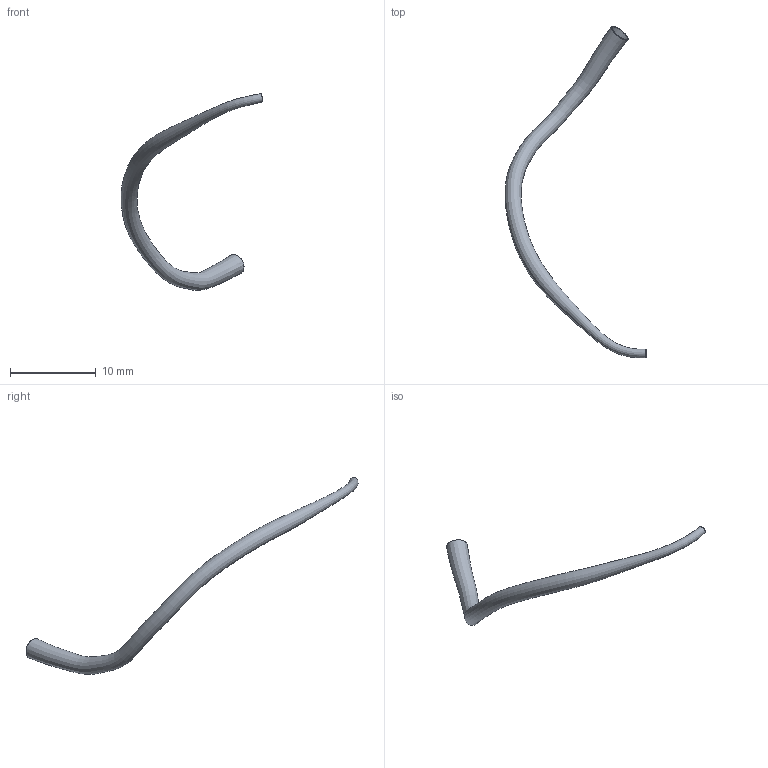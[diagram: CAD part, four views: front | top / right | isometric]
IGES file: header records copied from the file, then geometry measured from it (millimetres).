
Global section: file name: C:\Documents and Settings\Administrator\Desktop\FDA-Pig\Domestic LCA\Pig_000004\lcx.seg.es.igs; native system: Rhinoceros ( May 19 2006 ); preprocessor: Trout Lake IGES 012 May 19 2006; date: 111205.183153; units: centimetre
Bounding box: 16.59 x 38.81 x 23 mm (x, y, z)
Surface area: 597.6 mm2 (no closed solid volume)
Topology: 0 solids, 0 shells, 4 faces, 13 edges, 10 vertices
Faces by surface type: bspline 4
